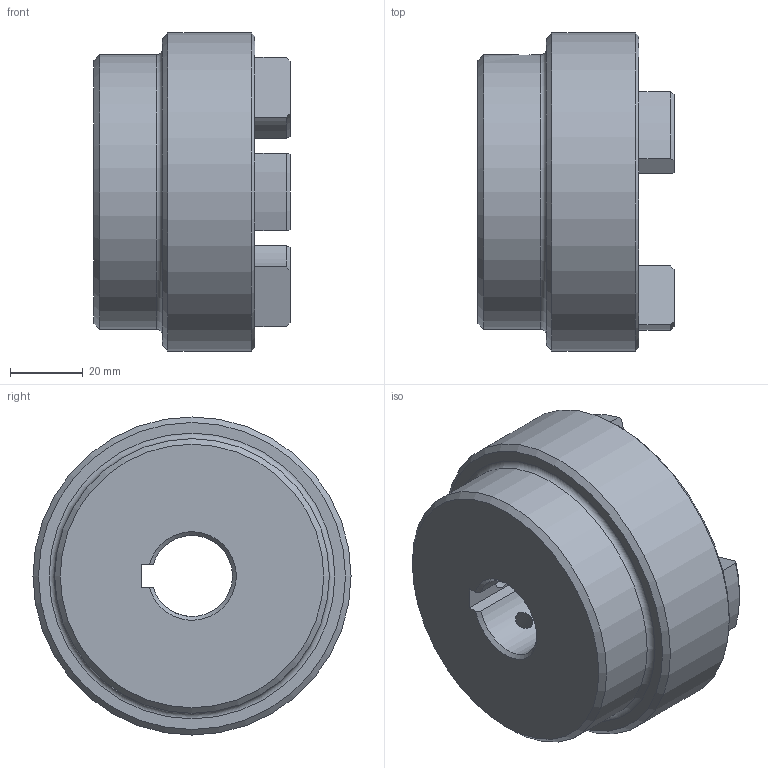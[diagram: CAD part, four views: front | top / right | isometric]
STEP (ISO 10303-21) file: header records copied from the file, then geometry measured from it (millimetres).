
FILE_DESCRIPTION (( 'STEP AP203' ), '1' );
FILE_NAME ('RC3.step', '2024-07-24T12:45:29', ( 'Adlan' ), ( '' ), 'SwSTEP 2.0', 'SolidWorks 2013', '' );
FILE_SCHEMA (( 'CONFIG_CONTROL_DESIGN' ));
Length unit declared in the file: inch
Products named in the file (1): RC3
Bounding box: 53.85 x 87.38 x 87.38 mm (x, y, z)
Volume: 182245.2 mm3; surface area: 30500.9 mm2
Topology: 1 solids, 1 shells, 67 faces, 168 edges, 105 vertices
Faces by surface type: cylinder 26, plane 16, torus 13, cone 12
Full cylindrical faces by diameter (mm): 5.105 x2, 75.438 x1, 87.376 x1
Entity records: 2235 total; most frequent: CARTESIAN_POINT 560, DIRECTION 354, ORIENTED_EDGE 310, EDGE_CURVE 155, AXIS2_PLACEMENT_3D 142, VERTEX_POINT 102, EDGE_LOOP 85, CIRCLE 74
